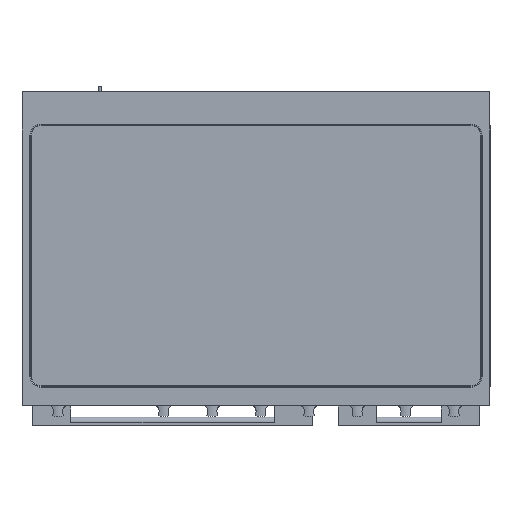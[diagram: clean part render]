
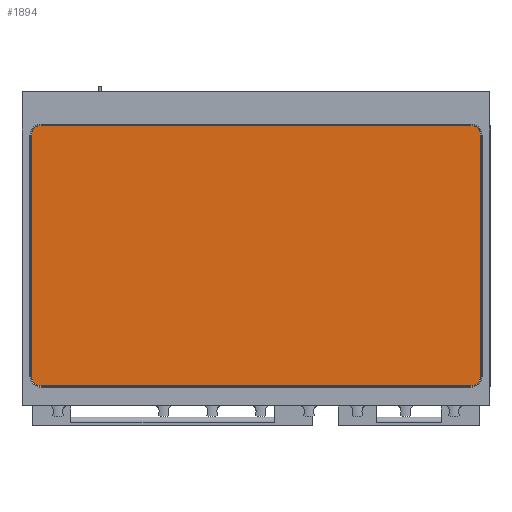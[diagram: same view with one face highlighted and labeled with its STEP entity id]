
A CAD part, top view. The second image highlights one B-rep face of the part: STEP entity #1894.
In plain terms, the highlighted planar face has unit normal (0, 0, 1).
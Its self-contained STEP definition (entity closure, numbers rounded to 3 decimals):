
#48=LINE('',#8242,#473);
#52=LINE('',#8254,#477);
#56=LINE('',#8266,#481);
#60=LINE('',#8278,#485);
#473=VECTOR('',#6371,1.);
#477=VECTOR('',#6383,1.);
#481=VECTOR('',#6395,1.);
#485=VECTOR('',#6407,1.);
#1490=CIRCLE('',#5913,18.5);
#1492=CIRCLE('',#5917,18.5);
#1494=CIRCLE('',#5921,18.5);
#1496=CIRCLE('',#5925,18.5);
#1627=PLANE('',#5930);
#1894=ADVANCED_FACE('',(#2271),#1627,.T.);
#2271=FACE_OUTER_BOUND('',#2573,.T.);
#2573=EDGE_LOOP('',(#3065,#3066,#3067,#3068,#3069,#3070,#3071,#3072));
#3065=ORIENTED_EDGE('',*,*,#5011,.T.);
#3066=ORIENTED_EDGE('',*,*,#5015,.T.);
#3067=ORIENTED_EDGE('',*,*,#5018,.T.);
#3068=ORIENTED_EDGE('',*,*,#5021,.T.);
#3069=ORIENTED_EDGE('',*,*,#5024,.T.);
#3070=ORIENTED_EDGE('',*,*,#5027,.T.);
#3071=ORIENTED_EDGE('',*,*,#5030,.T.);
#3072=ORIENTED_EDGE('',*,*,#5033,.T.);
#4488=VERTEX_POINT('',#8234);
#4489=VERTEX_POINT('',#8235);
#4492=VERTEX_POINT('',#8243);
#4494=VERTEX_POINT('',#8249);
#4496=VERTEX_POINT('',#8255);
#4498=VERTEX_POINT('',#8261);
#4500=VERTEX_POINT('',#8267);
#4502=VERTEX_POINT('',#8273);
#5011=EDGE_CURVE('',#4488,#4489,#1490,.T.);
#5015=EDGE_CURVE('',#4489,#4492,#48,.T.);
#5018=EDGE_CURVE('',#4492,#4494,#1492,.T.);
#5021=EDGE_CURVE('',#4494,#4496,#52,.T.);
#5024=EDGE_CURVE('',#4496,#4498,#1494,.T.);
#5027=EDGE_CURVE('',#4498,#4500,#56,.T.);
#5030=EDGE_CURVE('',#4500,#4502,#1496,.T.);
#5033=EDGE_CURVE('',#4502,#4488,#60,.T.);
#5913=AXIS2_PLACEMENT_3D('',#8233,#6363,#6364);
#5917=AXIS2_PLACEMENT_3D('',#8248,#6376,#6377);
#5921=AXIS2_PLACEMENT_3D('',#8260,#6388,#6389);
#5925=AXIS2_PLACEMENT_3D('',#8272,#6400,#6401);
#5930=AXIS2_PLACEMENT_3D('',#8282,#6413,#6414);
#6363=DIRECTION('',(0.,0.,1.));
#6364=DIRECTION('',(1.,0.,0.));
#6371=DIRECTION('',(0.,-1.,0.));
#6376=DIRECTION('',(0.,0.,1.));
#6377=DIRECTION('',(1.,0.,0.));
#6383=DIRECTION('',(1.,0.,0.));
#6388=DIRECTION('',(0.,0.,1.));
#6389=DIRECTION('',(1.,0.,0.));
#6395=DIRECTION('',(0.,1.,0.));
#6400=DIRECTION('',(0.,0.,1.));
#6401=DIRECTION('',(1.,0.,0.));
#6407=DIRECTION('',(-1.,0.,0.));
#6413=DIRECTION('',(0.,0.,1.));
#6414=DIRECTION('',(1.,0.,0.));
#8233=CARTESIAN_POINT('',(-162.625,491.325,426.574));
#8234=CARTESIAN_POINT('',(-162.625,509.825,426.574));
#8235=CARTESIAN_POINT('',(-181.125,491.325,426.574));
#8242=CARTESIAN_POINT('',(-181.125,491.325,426.574));
#8243=CARTESIAN_POINT('',(-181.125,28.825,426.574));
#8248=CARTESIAN_POINT('',(-162.625,28.825,426.574));
#8249=CARTESIAN_POINT('',(-162.625,10.325,426.574));
#8254=CARTESIAN_POINT('',(-162.625,10.325,426.574));
#8255=CARTESIAN_POINT('',(661.875,10.325,426.574));
#8260=CARTESIAN_POINT('',(661.875,28.825,426.574));
#8261=CARTESIAN_POINT('',(680.375,28.825,426.574));
#8266=CARTESIAN_POINT('',(680.375,491.325,426.574));
#8267=CARTESIAN_POINT('',(680.375,491.325,426.574));
#8272=CARTESIAN_POINT('',(661.875,491.325,426.574));
#8273=CARTESIAN_POINT('',(661.875,509.825,426.574));
#8278=CARTESIAN_POINT('',(-162.625,509.825,426.574));
#8282=CARTESIAN_POINT('',(-162.625,491.325,426.574));
